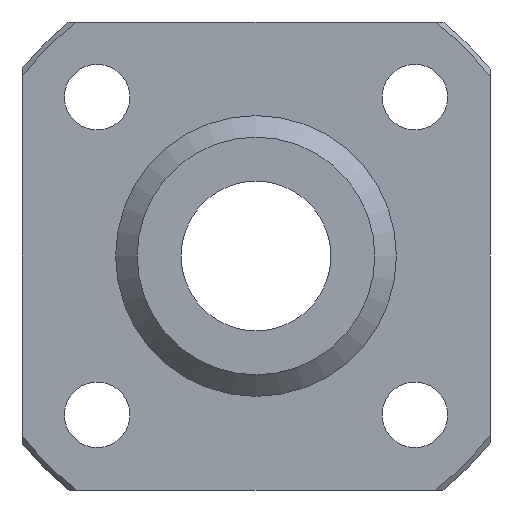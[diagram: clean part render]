
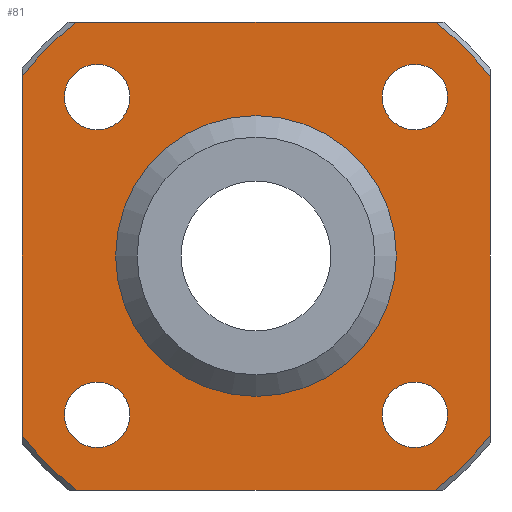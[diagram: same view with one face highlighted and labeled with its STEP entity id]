
A CAD part, left-side view. The second image highlights one B-rep face of the part: STEP entity #81.
In plain terms, the highlighted planar face has unit normal (-1, 0, 0).
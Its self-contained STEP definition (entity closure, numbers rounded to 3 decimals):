
#81=ADVANCED_FACE('',(#129,#130,#131,#132,#133,#134),#135,.T.);
#129=FACE_BOUND('',#223,.T.);
#130=FACE_BOUND('',#224,.T.);
#131=FACE_BOUND('',#225,.T.);
#132=FACE_BOUND('',#226,.T.);
#133=FACE_BOUND('',#227,.T.);
#134=FACE_OUTER_BOUND('',#228,.T.);
#135=PLANE('',#229);
#223=EDGE_LOOP('',(#353));
#224=EDGE_LOOP('',(#354));
#225=EDGE_LOOP('',(#355));
#226=EDGE_LOOP('',(#356));
#227=EDGE_LOOP('',(#357));
#228=EDGE_LOOP('',(#358,#359,#360,#361,#362,#363,#364,#365));
#229=AXIS2_PLACEMENT_3D('',#366,#367,#368);
#353=ORIENTED_EDGE('',*,*,#569,.F.);
#354=ORIENTED_EDGE('',*,*,#570,.F.);
#355=ORIENTED_EDGE('',*,*,#571,.F.);
#356=ORIENTED_EDGE('',*,*,#572,.F.);
#357=ORIENTED_EDGE('',*,*,#573,.F.);
#358=ORIENTED_EDGE('',*,*,#574,.T.);
#359=ORIENTED_EDGE('',*,*,#539,.T.);
#360=ORIENTED_EDGE('',*,*,#575,.T.);
#361=ORIENTED_EDGE('',*,*,#576,.T.);
#362=ORIENTED_EDGE('',*,*,#577,.T.);
#363=ORIENTED_EDGE('',*,*,#550,.T.);
#364=ORIENTED_EDGE('',*,*,#578,.T.);
#365=ORIENTED_EDGE('',*,*,#579,.T.);
#366=CARTESIAN_POINT('',(-8.0,7.5,0.0));
#367=DIRECTION('',(-1.0,0.0,0.0));
#368=DIRECTION('',(0.0,0.0,1.0));
#539=EDGE_CURVE('',#610,#607,#611,.T.);
#550=EDGE_CURVE('',#631,#628,#632,.T.);
#569=EDGE_CURVE('',#666,#666,#667,.T.);
#570=EDGE_CURVE('',#668,#668,#669,.T.);
#571=EDGE_CURVE('',#670,#670,#671,.T.);
#572=EDGE_CURVE('',#672,#672,#673,.T.);
#573=EDGE_CURVE('',#674,#674,#675,.T.);
#574=EDGE_CURVE('',#676,#610,#677,.T.);
#575=EDGE_CURVE('',#607,#678,#679,.T.);
#576=EDGE_CURVE('',#678,#680,#681,.T.);
#577=EDGE_CURVE('',#680,#631,#682,.T.);
#578=EDGE_CURVE('',#628,#683,#684,.T.);
#579=EDGE_CURVE('',#683,#676,#685,.T.);
#607=VERTEX_POINT('',#729);
#610=VERTEX_POINT('',#735);
#611=LINE('',#736,#737);
#628=VERTEX_POINT('',#769);
#631=VERTEX_POINT('',#775);
#632=LINE('',#776,#777);
#666=VERTEX_POINT('',#825);
#667=CIRCLE('',#826,1.75);
#668=VERTEX_POINT('',#827);
#669=CIRCLE('',#828,1.75);
#670=VERTEX_POINT('',#829);
#671=CIRCLE('',#830,1.75);
#672=VERTEX_POINT('',#831);
#673=CIRCLE('',#832,1.75);
#674=VERTEX_POINT('',#833);
#675=CIRCLE('',#834,7.5);
#676=VERTEX_POINT('',#835);
#677=CIRCLE('',#836,15.746);
#678=VERTEX_POINT('',#837);
#679=CIRCLE('',#838,15.746);
#680=VERTEX_POINT('',#839);
#681=LINE('',#840,#841);
#682=CIRCLE('',#842,15.746);
#683=VERTEX_POINT('',#843);
#684=CIRCLE('',#844,15.746);
#685=LINE('',#845,#846);
#729=CARTESIAN_POINT('',(-8.0,-12.5,9.575));
#735=CARTESIAN_POINT('',(-8.0,-12.5,-9.575));
#736=CARTESIAN_POINT('',(-8.0,-12.5,0.0));
#737=VECTOR('',#915,1.0);
#769=CARTESIAN_POINT('',(-8.0,12.5,-9.575));
#775=CARTESIAN_POINT('',(-8.0,12.5,9.575));
#776=CARTESIAN_POINT('',(-8.0,12.5,0.0));
#777=VECTOR('',#925,1.0);
#825=CARTESIAN_POINT('',(-8.0,8.485,-6.735));
#826=AXIS2_PLACEMENT_3D('',#961,#962,#963);
#827=CARTESIAN_POINT('',(-8.0,-8.485,-6.735));
#828=AXIS2_PLACEMENT_3D('',#964,#965,#966);
#829=CARTESIAN_POINT('',(-8.0,-8.485,10.235));
#830=AXIS2_PLACEMENT_3D('',#967,#968,#969);
#831=CARTESIAN_POINT('',(-8.0,8.485,10.235));
#832=AXIS2_PLACEMENT_3D('',#970,#971,#972);
#833=CARTESIAN_POINT('',(-8.0,0.0,7.5));
#834=AXIS2_PLACEMENT_3D('',#973,#974,#975);
#835=CARTESIAN_POINT('',(-8.0,-9.575,-12.5));
#836=AXIS2_PLACEMENT_3D('',#976,#977,#978);
#837=CARTESIAN_POINT('',(-8.0,-9.575,12.5));
#838=AXIS2_PLACEMENT_3D('',#979,#980,#981);
#839=CARTESIAN_POINT('',(-8.0,9.575,12.5));
#840=CARTESIAN_POINT('',(-8.0,7.5,12.5));
#841=VECTOR('',#982,1.0);
#842=AXIS2_PLACEMENT_3D('',#983,#984,#985);
#843=CARTESIAN_POINT('',(-8.0,9.575,-12.5));
#844=AXIS2_PLACEMENT_3D('',#986,#987,#988);
#845=CARTESIAN_POINT('',(-8.0,7.5,-12.5));
#846=VECTOR('',#989,1.0);
#915=DIRECTION('',(0.0,0.0,1.0));
#925=DIRECTION('',(0.0,0.0,-1.0));
#961=CARTESIAN_POINT('',(-8.0,8.485,-8.485));
#962=DIRECTION('',(-1.0,0.0,0.0));
#963=DIRECTION('',(0.0,0.0,1.0));
#964=CARTESIAN_POINT('',(-8.0,-8.485,-8.485));
#965=DIRECTION('',(-1.0,0.0,0.0));
#966=DIRECTION('',(0.0,0.0,1.0));
#967=CARTESIAN_POINT('',(-8.0,-8.485,8.485));
#968=DIRECTION('',(-1.0,0.0,0.0));
#969=DIRECTION('',(0.0,0.0,1.0));
#970=CARTESIAN_POINT('',(-8.0,8.485,8.485));
#971=DIRECTION('',(-1.0,0.0,0.0));
#972=DIRECTION('',(0.0,0.0,1.0));
#973=CARTESIAN_POINT('',(-8.0,0.0,0.0));
#974=DIRECTION('',(-1.0,0.0,0.0));
#975=DIRECTION('',(0.0,0.0,1.0));
#976=CARTESIAN_POINT('',(-8.0,0.0,0.0));
#977=DIRECTION('',(-1.0,0.0,0.0));
#978=DIRECTION('',(0.0,0.0,1.0));
#979=CARTESIAN_POINT('',(-8.0,0.0,0.0));
#980=DIRECTION('',(-1.0,0.0,0.0));
#981=DIRECTION('',(0.0,0.0,1.0));
#982=DIRECTION('',(0.0,1.0,0.0));
#983=CARTESIAN_POINT('',(-8.0,0.0,0.0));
#984=DIRECTION('',(-1.0,0.0,0.0));
#985=DIRECTION('',(0.0,0.0,1.0));
#986=CARTESIAN_POINT('',(-8.0,0.0,0.0));
#987=DIRECTION('',(-1.0,0.0,0.0));
#988=DIRECTION('',(0.0,0.0,1.0));
#989=DIRECTION('',(0.0,-1.0,0.0));
